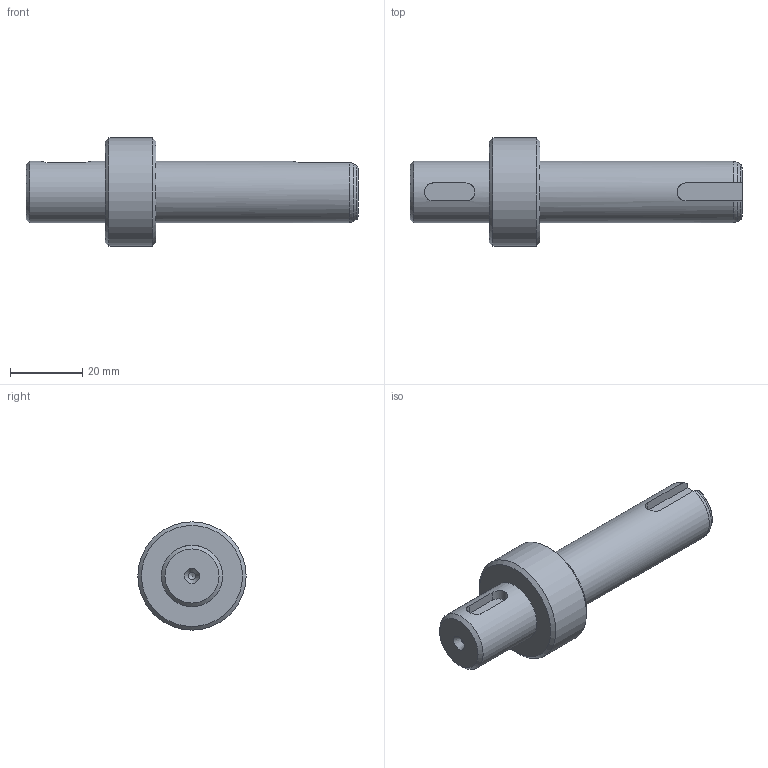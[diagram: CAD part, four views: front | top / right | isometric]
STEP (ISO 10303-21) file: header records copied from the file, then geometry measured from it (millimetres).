
FILE_DESCRIPTION(/* description */ (''),/* implementation_level */ '2;1');
FILE_NAME(/* name */ '',/* time_stamp */ '2026-07-02T09:06:14+09:00',/* author */ ('jhkim'),/* organization */ (''),/* preprocessor_version */ 'ST-DEVELOPER v20.1',/* originating_system */ 'Autodesk Inventor 2027',/* authorisation */ '');
FILE_SCHEMA (('AUTOMOTIVE_DESIGN { 1 0 10303 214 3 1 1 }'));
Length unit declared in the file: millimetre
Products named in the file (1): 메인 축
Bounding box: 92 x 30 x 30 mm (x, y, z)
Volume: 26949.3 mm3; surface area: 6940.3 mm2
Topology: 1 solids, 1 shells, 28 faces, 68 edges, 45 vertices
Faces by surface type: plane 10, cylinder 8, cone 8, torus 2
Full cylindrical faces by diameter (mm): 2 x2, 17 x2, 30 x1
Entity records: 918 total; most frequent: CARTESIAN_POINT 222, DIRECTION 137, ORIENTED_EDGE 132, EDGE_CURVE 66, AXIS2_PLACEMENT_3D 54, VERTEX_POINT 45, EDGE_LOOP 33, LINE 29
